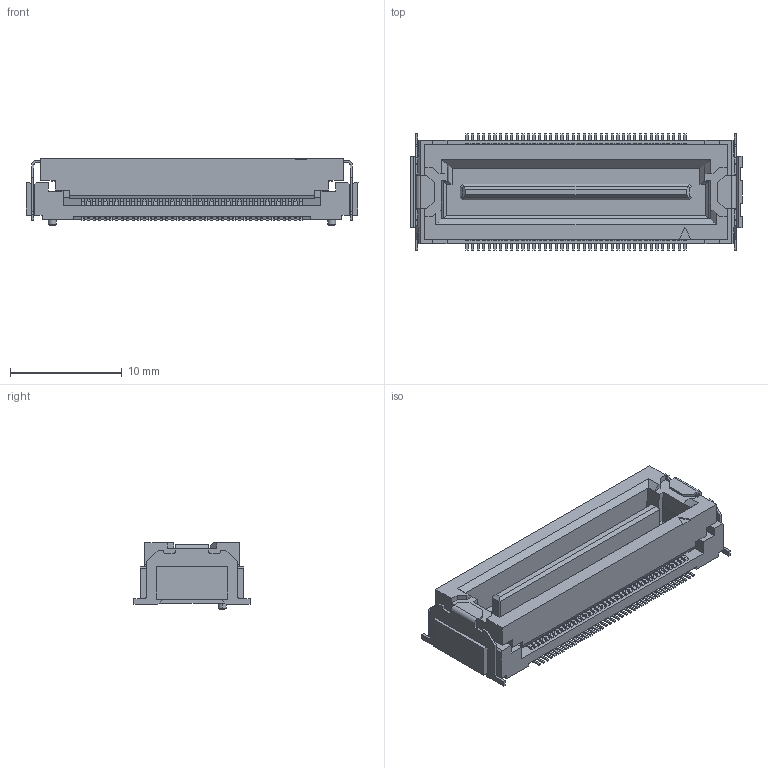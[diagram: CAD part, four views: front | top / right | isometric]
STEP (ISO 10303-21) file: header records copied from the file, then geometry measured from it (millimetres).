
FILE_DESCRIPTION(('Creo Elements/Direct Modeling STEP Export'),'2;1');
FILE_NAME('P3D071_DT01-080S-T.stp','2017-08-11T 9:43:58',(''),(''),'Creo Elements/Direct Modeling STEP processor for AP214 (Solid Model)','Creo Elements/Direct Modeling 19.0F 14-Feb-2017 (C) Parametric Technology GmbH','');
FILE_SCHEMA(('AUTOMOTIVE_DESIGN { 1 0 10303 214 1 1 1 1 }'));
Products named in the file (2): DT01-080S-T
Assembly tree (1 placements, depth 2):
  DT01-080S-T
    DT01-080S-T
Bounding box: 29.7 x 10.38 x 5.95 mm (x, y, z)
Volume: 872.3 mm3; surface area: 1851.9 mm2
Topology: 1 solids, 1 shells, 2422 faces, 6667 edges, 4330 vertices
Faces by surface type: plane 1918, cylinder 500, cone 4
Entity records: 75099 total; most frequent: ORIENTED_EDGE 13334, CARTESIAN_POINT 13097, DIRECTION 12022, EDGE_CURVE 6667, VECTOR 5512, LINE 5512, VERTEX_POINT 4330, AXIS2_PLACEMENT_3D 3255
